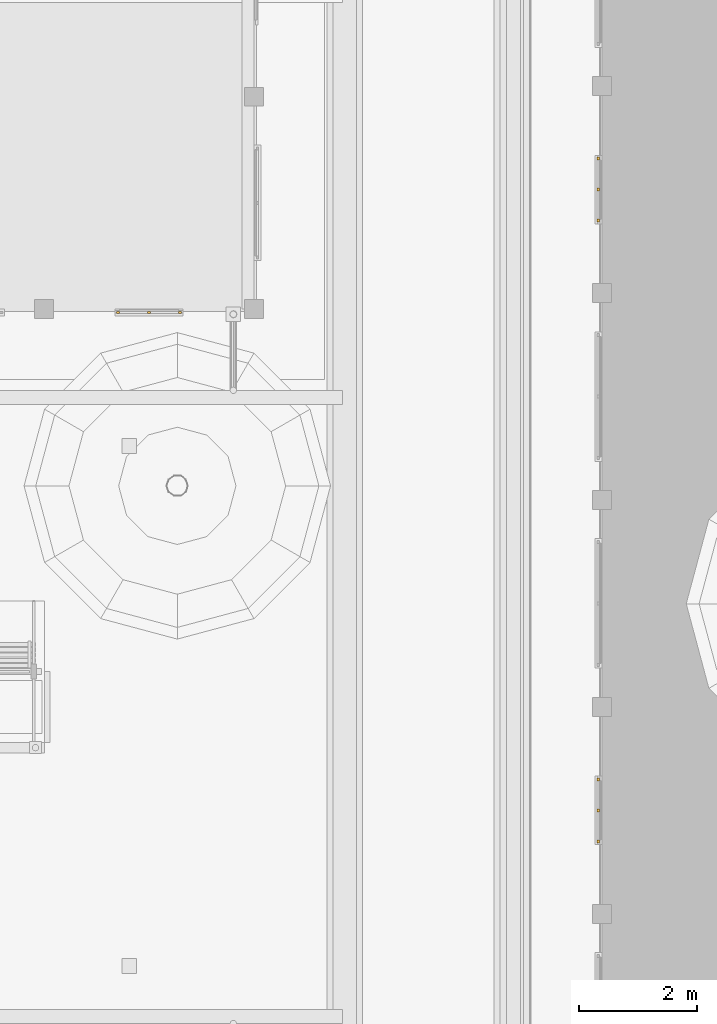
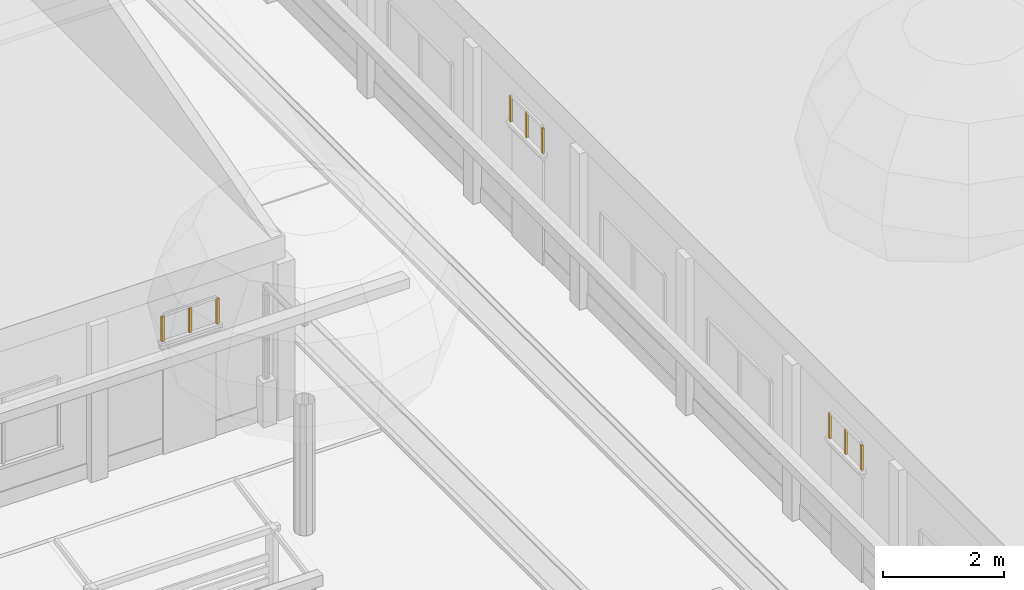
# One storey, part 90 of 177: 9 windows.
"""IFC4 building model written with IfcOpenShell, lengths in metres."""

from ifc_helpers import new_model, si_unit, origin, origin_with_axes, place, context, subcontext, project, spatial, triangles, element, save


model = new_model("IFC4")

# Units and contexts
model_context = context("Model", 3, precision=1e-05, world=origin_with_axes())
body_context = subcontext(model_context, "Body", "Model", "MODEL_VIEW")
ifc_project = project(units=[si_unit("LENGTHUNIT", "METRE"), si_unit("AREAUNIT", "SQUARE_METRE"), si_unit("VOLUMEUNIT", "CUBIC_METRE"), si_unit("PLANEANGLEUNIT", "RADIAN")], contexts=[model_context])

# Site, building, storey
site_placement = place(None, origin_with_axes())
site = spatial("IfcSite", under=ifc_project, at=site_placement, Name="Predio Los Mangos - Morales, San Martín", CompositionType="ELEMENT")
building_placement = place(site_placement, origin())
building = spatial("IfcBuilding", under=site, at=building_placement, Name="Hogar de Refugio Temporal", CompositionType="ELEMENT")
storey_placement = place(building_placement, origin())
storey = spatial("IfcBuildingStorey", under=building, at=storey_placement, Name="NIVEL 1 (NPT +0.00)", CompositionType="ELEMENT", Elevation=0.0)

# Windows
window_1_placement = place(storey_placement, origin())
element("IfcWindow", 1, at=window_1_placement, inside=storey, Name="E-08_vt4_m", ObjectType="Ventana", PredefinedType="WINDOW", context=body_context, shape_type="Tessellation", body=[
    triangles([(47.47, 116.92, 2.45), (47.52, 116.92, 2.45), (47.52, 116.96, 2.45), (47.47, 116.96, 2.45), (47.47, 116.92, 2.95), (47.52, 116.92, 2.95), (47.52, 116.96, 2.95), (47.47, 116.96, 2.95)], [[1, 4, 3], [1, 3, 2], [5, 6, 7], [5, 7, 8], [1, 2, 6], [1, 6, 5], [2, 3, 7], [2, 7, 6], [3, 4, 8], [3, 8, 7], [4, 1, 5], [4, 5, 8]]),
])
window_2_placement = place(storey_placement, origin())
element("IfcWindow", 2, at=window_2_placement, inside=storey, Name="E-08_vt4_m", ObjectType="Ventana", PredefinedType="WINDOW", context=body_context, shape_type="Tessellation", body=[
    triangles([(48.52, 116.92, 2.45), (48.57, 116.92, 2.45), (48.57, 116.96, 2.45), (48.52, 116.96, 2.45), (48.52, 116.92, 2.95), (48.57, 116.92, 2.95), (48.57, 116.96, 2.95), (48.52, 116.96, 2.95)], [[1, 4, 3], [1, 3, 2], [5, 6, 7], [5, 7, 8], [1, 2, 6], [1, 6, 5], [2, 3, 7], [2, 7, 6], [3, 4, 8], [3, 8, 7], [4, 1, 5], [4, 5, 8]]),
])
window_3_placement = place(storey_placement, origin())
element("IfcWindow", 3, at=window_3_placement, inside=storey, Name="E-08_vt4_m", ObjectType="Ventana", PredefinedType="WINDOW", context=body_context, shape_type="Tessellation", body=[
    triangles([(47.995, 116.92, 2.45), (48.045, 116.92, 2.45), (48.045, 116.96, 2.45), (47.995, 116.96, 2.45), (47.995, 116.92, 2.95), (48.045, 116.92, 2.95), (48.045, 116.96, 2.95), (47.995, 116.96, 2.95)], [[1, 4, 3], [1, 3, 2], [5, 6, 7], [5, 7, 8], [1, 2, 6], [1, 6, 5], [2, 3, 7], [2, 7, 6], [3, 4, 8], [3, 8, 7], [4, 1, 5], [4, 5, 8]]),
])
window_4_placement = place(storey_placement, origin())
element("IfcWindow", 4, at=window_4_placement, inside=storey, Name="E-07_vt4_m", ObjectType="Ventana", PredefinedType="WINDOW", context=body_context, shape_type="Tessellation", body=[
    triangles([(55.62, 107.945, 2.45), (55.66, 107.945, 2.45), (55.66, 107.995, 2.45), (55.62, 107.995, 2.45), (55.62, 107.945, 2.95), (55.66, 107.945, 2.95), (55.66, 107.995, 2.95), (55.62, 107.995, 2.95)], [[1, 4, 3], [1, 3, 2], [5, 6, 7], [5, 7, 8], [1, 2, 6], [1, 6, 5], [2, 3, 7], [2, 7, 6], [3, 4, 8], [3, 8, 7], [4, 1, 5], [4, 5, 8]]),
])
window_5_placement = place(storey_placement, origin())
element("IfcWindow", 5, at=window_5_placement, inside=storey, Name="E-07_vt4_m", ObjectType="Ventana", PredefinedType="WINDOW", context=body_context, shape_type="Tessellation", body=[
    triangles([(55.62, 108.995, 2.45), (55.66, 108.995, 2.45), (55.66, 109.045, 2.45), (55.62, 109.045, 2.45), (55.62, 108.995, 2.95), (55.66, 108.995, 2.95), (55.66, 109.045, 2.95), (55.62, 109.045, 2.95)], [[1, 4, 3], [1, 3, 2], [5, 6, 7], [5, 7, 8], [1, 2, 6], [1, 6, 5], [2, 3, 7], [2, 7, 6], [3, 4, 8], [3, 8, 7], [4, 1, 5], [4, 5, 8]]),
])
window_6_placement = place(storey_placement, origin())
element("IfcWindow", 6, at=window_6_placement, inside=storey, Name="E-07_vt4_m", ObjectType="Ventana", PredefinedType="WINDOW", context=body_context, shape_type="Tessellation", body=[
    triangles([(55.62, 108.47, 2.45), (55.66, 108.47, 2.45), (55.66, 108.52, 2.45), (55.62, 108.52, 2.45), (55.62, 108.47, 2.95), (55.66, 108.47, 2.95), (55.66, 108.52, 2.95), (55.62, 108.52, 2.95)], [[1, 4, 3], [1, 3, 2], [5, 6, 7], [5, 7, 8], [1, 2, 6], [1, 6, 5], [2, 3, 7], [2, 7, 6], [3, 4, 8], [3, 8, 7], [4, 1, 5], [4, 5, 8]]),
])
window_7_placement = place(storey_placement, origin())
element("IfcWindow", 7, at=window_7_placement, inside=storey, Name="E-07_vt7_m", ObjectType="Ventana", PredefinedType="WINDOW", context=body_context, shape_type="Tessellation", body=[
    triangles([(55.62, 118.475, 2.45), (55.66, 118.475, 2.45), (55.66, 118.525, 2.45), (55.62, 118.525, 2.45), (55.62, 118.475, 2.95), (55.66, 118.475, 2.95), (55.66, 118.525, 2.95), (55.62, 118.525, 2.95)], [[1, 4, 3], [1, 3, 2], [5, 6, 7], [5, 7, 8], [1, 2, 6], [1, 6, 5], [2, 3, 7], [2, 7, 6], [3, 4, 8], [3, 8, 7], [4, 1, 5], [4, 5, 8]]),
])
window_8_placement = place(storey_placement, origin())
element("IfcWindow", 8, at=window_8_placement, inside=storey, Name="E-07_vt7_m", ObjectType="Ventana", PredefinedType="WINDOW", context=body_context, shape_type="Tessellation", body=[
    triangles([(55.62, 119.525, 2.45), (55.66, 119.525, 2.45), (55.66, 119.575, 2.45), (55.62, 119.575, 2.45), (55.62, 119.525, 2.95), (55.66, 119.525, 2.95), (55.66, 119.575, 2.95), (55.62, 119.575, 2.95)], [[1, 4, 3], [1, 3, 2], [5, 6, 7], [5, 7, 8], [1, 2, 6], [1, 6, 5], [2, 3, 7], [2, 7, 6], [3, 4, 8], [3, 8, 7], [4, 1, 5], [4, 5, 8]]),
])
window_9_placement = place(storey_placement, origin())
element("IfcWindow", 9, at=window_9_placement, inside=storey, Name="E-07_vt7_m", ObjectType="Ventana", PredefinedType="WINDOW", context=body_context, shape_type="Tessellation", body=[
    triangles([(55.62, 119.0, 2.45), (55.66, 119.0, 2.45), (55.66, 119.05, 2.45), (55.62, 119.05, 2.45), (55.62, 119.0, 2.95), (55.66, 119.0, 2.95), (55.66, 119.05, 2.95), (55.62, 119.05, 2.95)], [[1, 4, 3], [1, 3, 2], [5, 6, 7], [5, 7, 8], [1, 2, 6], [1, 6, 5], [2, 3, 7], [2, 7, 6], [3, 4, 8], [3, 8, 7], [4, 1, 5], [4, 5, 8]]),
])

save(model, "model.ifc")
